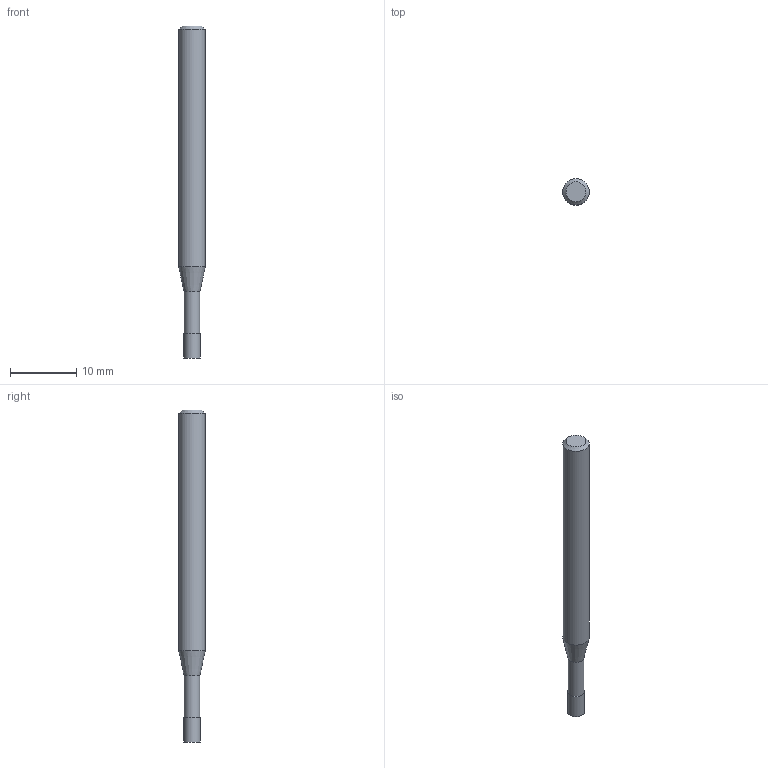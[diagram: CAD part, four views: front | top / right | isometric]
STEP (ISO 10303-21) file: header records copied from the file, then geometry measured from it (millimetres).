
FILE_DESCRIPTION((''),'2;1');
FILE_NAME('C:\Users\nsx150\AppData\Local\Temp\Mastercam 2021\17T8Q8S9EB\TEMP.step','2021-04-21T14:28:00',(''),(''),'STEP Write','Mastercam 2021 ... CNC Software, Inc.','');
FILE_SCHEMA(('AUTOMOTIVE_DESIGN'));
Length unit declared in the file: millimetre
Products named in the file (1): None
Bounding box: 4 x 4 x 50 mm (x, y, z)
Volume: 531.5 mm3; surface area: 593.5 mm2
Topology: 2 solids, 2 shells, 9 faces, 12 edges, 7 vertices
Faces by surface type: plane 4, cylinder 3, cone 2
Full cylindrical faces by diameter (mm): 2.4 x1, 2.5 x1, 4 x1
Entity records: 211 total; most frequent: DIRECTION 36, CARTESIAN_POINT 25, AXIS2_PLACEMENT_3D 18, ORIENTED_EDGE 14, EDGE_LOOP 14, STYLED_ITEM 12, ADVANCED_FACE 9, FACE_BOUND 8
